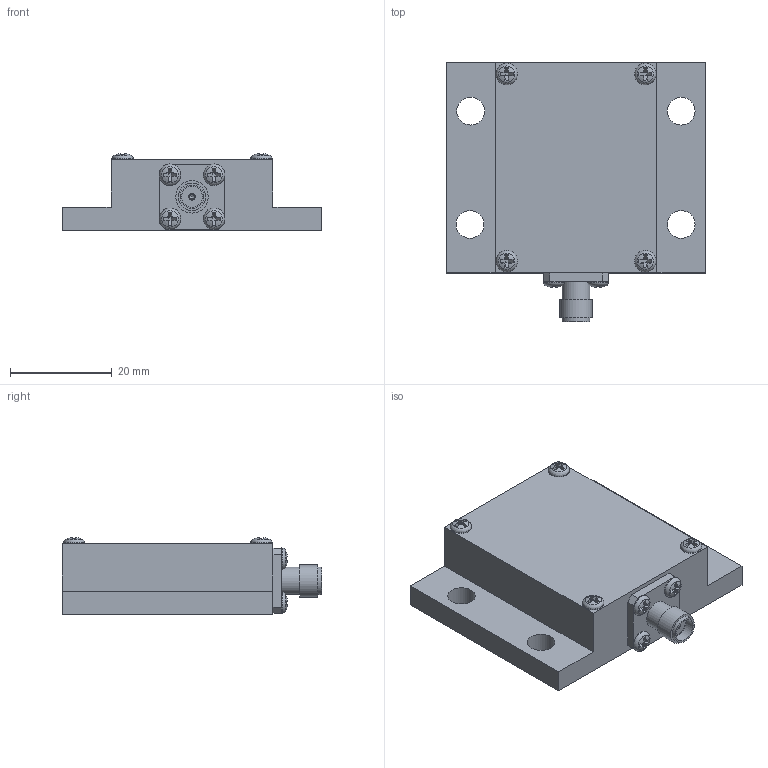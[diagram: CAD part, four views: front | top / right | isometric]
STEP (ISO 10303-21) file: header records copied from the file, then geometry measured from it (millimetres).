
FILE_DESCRIPTION(/* description */ ('Unknown'),/* implementation_level */ '2;1');
FILE_NAME(/* name */ '150-CT-FA Rev A STEP',/* time_stamp */ '2019-11-20T12:11:04-05:00',/* author */ ('Unknown'),/* organization */ ('Unknown'),/* preprocessor_version */ 'ST-DEVELOPER v16.7',/* originating_system */ 'DEX',/* authorisation */ $);
FILE_SCHEMA (('AUTOMOTIVE_DESIGN {1 0 10303 214 3 1 1}'));
Length unit declared in the file: millimetre
Products named in the file (1): 150-CT-FA
Bounding box: 50.8 x 50.8 x 15.1 mm (x, y, z)
Volume: 21891.4 mm3; surface area: 6922.6 mm2
Topology: 1 solids, 1 shells, 236 faces, 639 edges, 415 vertices
Faces by surface type: plane 164, cylinder 43, cone 13, sphere 8, torus 8
Full cylindrical faces by diameter (mm): 0.914 x1, 1.27 x1, 4.115 x1, 4.597 x1, 5.385 x2, 5.461 x4, 6.35 x1
Entity records: 8846 total; most frequent: CARTESIAN_POINT 1330, DIRECTION 1290, ORIENTED_EDGE 1160, EDGE_CURVE 580, AXIS2_PLACEMENT_3D 513, VERTEX_POINT 393, FACE_BOUND 291, EDGE_LOOP 290
